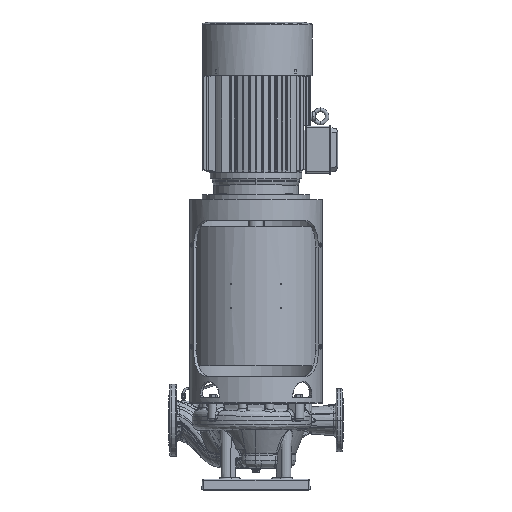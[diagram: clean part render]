
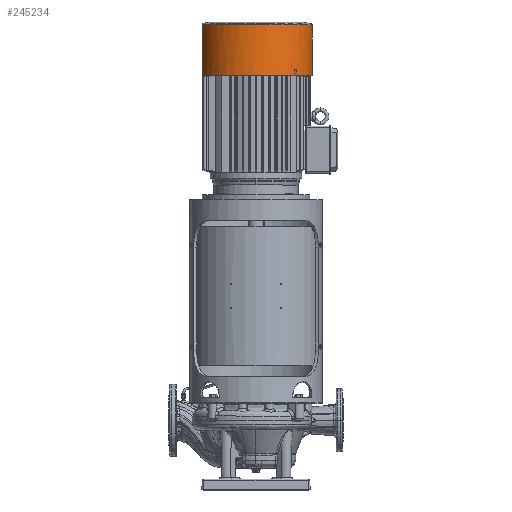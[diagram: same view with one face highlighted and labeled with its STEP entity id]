
A CAD part, top view. The second image highlights one B-rep face of the part: STEP entity #245234.
In plain terms, the highlighted cylindrical face has radius 210 mm (diameter 420 mm), a partial arc.
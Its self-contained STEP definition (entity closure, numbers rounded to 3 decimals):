
#232042=CARTESIAN_POINT('',(0.,367.048,
0.));
#232043=DIRECTION('',(0.,-1.,0.));
#232044=DIRECTION('',(1.,0.,0.));
#232045=AXIS2_PLACEMENT_3D('',#232042,#232043,#232044);
#232047=CARTESIAN_POINT('',(0.,367.048,
0.));
#232048=DIRECTION('',(0.,-1.,0.));
#232049=DIRECTION('',(-0.943,0.,
-0.333));
#232050=AXIS2_PLACEMENT_3D('',#232047,#232048,#232049);
#232052=CARTESIAN_POINT('',(0.,367.048,
0.));
#232053=DIRECTION('',(0.,-1.,0.));
#232054=DIRECTION('',(0.,0.,-1.));
#232055=AXIS2_PLACEMENT_3D('',#232052,#232053,#232054);
#232057=CARTESIAN_POINT('',(0.,177.5,0.));
#232058=DIRECTION('',(0.,-1.,0.));
#232059=DIRECTION('',(-0.943,0.,
-0.333));
#232060=AXIS2_PLACEMENT_3D('',#232057,#232058,#232059);
#232062=CARTESIAN_POINT('',(0.,367.048,
0.));
#232063=DIRECTION('',(0.,1.,0.));
#232064=DIRECTION('',(-0.943,0.,0.333));
#232065=AXIS2_PLACEMENT_3D('',#232062,#232063,#232064);
#232231=DIRECTION('',(0.,-1.,0.));
#232232=VECTOR('',#232231,189.548);
#232233=CARTESIAN_POINT('',(-198.,367.048,
69.971));
#232234=LINE('',#232233,#232232);
#232235=DIRECTION('',(0.,1.,0.));
#232236=VECTOR('',#232235,189.548);
#232237=CARTESIAN_POINT('',(-198.,177.5,-69.971));
#232238=LINE('',#232237,#232236);
#238833=CARTESIAN_POINT('',(-198.,367.048,
69.971));
#238834=CARTESIAN_POINT('',(0.,367.048,210.));
#238835=VERTEX_POINT('',#238833);
#238836=VERTEX_POINT('',#238834);
#238840=CARTESIAN_POINT('',(-198.,177.5,69.971));
#238841=VERTEX_POINT('',#238840);
#238842=CARTESIAN_POINT('',(-198.,177.5,-69.971));
#238843=CARTESIAN_POINT('',(-198.,367.048,
-69.971));
#238844=VERTEX_POINT('',#238842);
#238845=VERTEX_POINT('',#238843);
#238850=CARTESIAN_POINT('',(0.,367.048,-210.));
#238851=VERTEX_POINT('',#238850);
#238854=CARTESIAN_POINT('',(210.,367.048,
0.));
#238855=VERTEX_POINT('',#238854);
#245217=CARTESIAN_POINT('',(0.,370.839,
0.));
#245218=DIRECTION('',(0.,-1.,0.));
#245219=DIRECTION('',(1.,0.,0.));
#245220=AXIS2_PLACEMENT_3D('',#245217,#245218,#245219);
#245221=CYLINDRICAL_SURFACE('',#245220,210.);
#245222=ORIENTED_EDGE('',*,*,#245194,.F.);
#245223=ORIENTED_EDGE('',*,*,#245212,.F.);
#245224=ORIENTED_EDGE('',*,*,#245210,.F.);
#245226=ORIENTED_EDGE('',*,*,#245225,.F.);
#245228=ORIENTED_EDGE('',*,*,#245227,.T.);
#245230=ORIENTED_EDGE('',*,*,#245229,.F.);
#245231=ORIENTED_EDGE('',*,*,#245196,.T.);
#245232=EDGE_LOOP('',(#245222,#245223,#245224,#245226,#245228,#245230,#245231));
#245233=FACE_OUTER_BOUND('',#245232,.F.);
#245234=ADVANCED_FACE('',(#245233),#245221,.T.);
#232046=CIRCLE('',#232045,210.);
#232051=CIRCLE('',#232050,210.);
#232056=CIRCLE('',#232055,210.);
#232061=CIRCLE('',#232060,210.);
#232066=CIRCLE('',#232065,210.);
#245194=EDGE_CURVE('',#238855,#238836,#232046,.T.);
#245196=EDGE_CURVE('',#238835,#238836,#232066,.T.);
#245210=EDGE_CURVE('',#238845,#238851,#232051,.T.);
#245212=EDGE_CURVE('',#238851,#238855,#232056,.T.);
#245225=EDGE_CURVE('',#238844,#238845,#232238,.T.);
#245227=EDGE_CURVE('',#238844,#238841,#232061,.T.);
#245229=EDGE_CURVE('',#238835,#238841,#232234,.T.);
